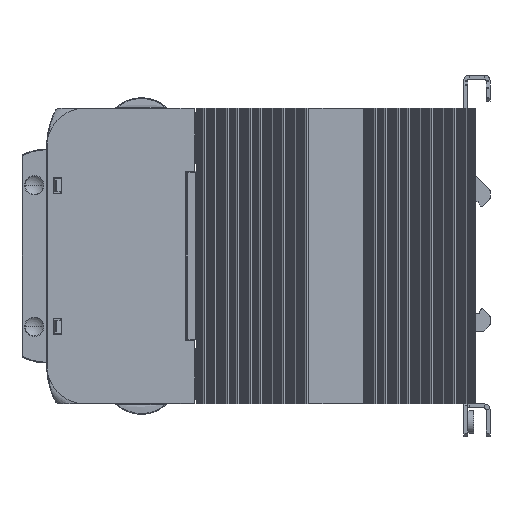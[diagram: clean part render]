
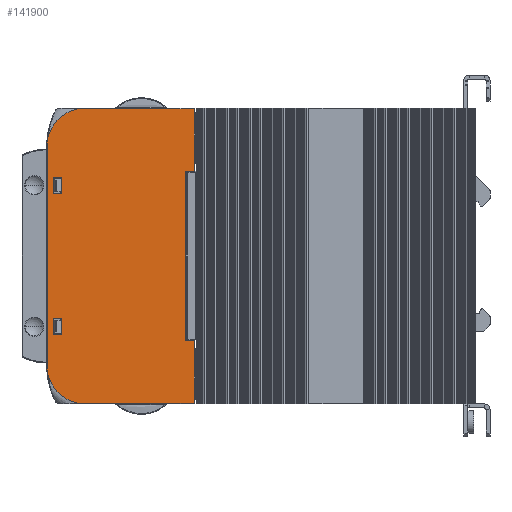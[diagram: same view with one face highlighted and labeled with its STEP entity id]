
A CAD part, left-side view. The second image highlights one B-rep face of the part: STEP entity #141900.
In plain terms, the highlighted planar face has unit normal (-1, 0, 0).
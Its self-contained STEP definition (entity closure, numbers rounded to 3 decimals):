
#105320=DIRECTION('',(0.,0.,1.));
#105321=VECTOR('',#105320,4.4);
#105322=CARTESIAN_POINT('',(-8.75,43.,-23.7));
#105323=LINE('',#105322,#105321);
#105327=DIRECTION('',(0.,1.,0.));
#105328=VECTOR('',#105327,1.9);
#105329=CARTESIAN_POINT('',(-8.75,40.8,-24.));
#105330=LINE('',#105329,#105328);
#105334=DIRECTION('',(0.,0.,-1.));
#105335=VECTOR('',#105334,4.4);
#105336=CARTESIAN_POINT('',(-8.75,40.5,-19.3));
#105337=LINE('',#105336,#105335);
#105341=DIRECTION('',(0.,-1.,0.));
#105342=VECTOR('',#105341,1.9);
#105343=CARTESIAN_POINT('',(-8.75,42.7,-19.));
#105344=LINE('',#105343,#105342);
#105348=DIRECTION('',(0.,-1.,0.));
#105349=VECTOR('',#105348,1.9);
#105350=CARTESIAN_POINT('',(-8.75,42.7,24.));
#105351=LINE('',#105350,#105349);
#105355=DIRECTION('',(0.,0.,1.));
#105356=VECTOR('',#105355,4.4);
#105357=CARTESIAN_POINT('',(-8.75,43.,19.3));
#105358=LINE('',#105357,#105356);
#105362=DIRECTION('',(0.,1.,0.));
#105363=VECTOR('',#105362,1.9);
#105364=CARTESIAN_POINT('',(-8.75,40.8,19.));
#105365=LINE('',#105364,#105363);
#105369=DIRECTION('',(0.,0.,-1.));
#105370=VECTOR('',#105369,4.4);
#105371=CARTESIAN_POINT('',(-8.75,40.5,23.7));
#105372=LINE('',#105371,#105370);
#105376=DIRECTION('',(0.,0.,1.));
#105377=VECTOR('',#105376,19.102);
#105378=CARTESIAN_POINT('',(-8.75,0.2,25.698));
#105379=LINE('',#105378,#105377);
#105383=DIRECTION('',(0.,1.,-0.009));
#105384=VECTOR('',#105383,2.7);
#105385=CARTESIAN_POINT('',(-8.75,0.2,25.698));
#105386=LINE('',#105385,#105384);
#105390=DIRECTION('',(0.,0.,1.));
#105391=VECTOR('',#105390,51.349);
#105392=CARTESIAN_POINT('',(-8.75,2.9,-25.675));
#105393=LINE('',#105392,#105391);
#105397=DIRECTION('',(0.,1.,0.009));
#105398=VECTOR('',#105397,2.7);
#105399=CARTESIAN_POINT('',(-8.75,0.2,-25.698));
#105400=LINE('',#105399,#105398);
#105404=DIRECTION('',(0.,0.,1.));
#105405=VECTOR('',#105404,19.102);
#105406=CARTESIAN_POINT('',(-8.75,0.2,-44.8));
#105407=LINE('',#105406,#105405);
#105411=DIRECTION('',(0.,-1.,0.));
#105412=VECTOR('',#105411,34.982);
#105413=CARTESIAN_POINT('',(-8.75,35.182,-44.8));
#105414=LINE('',#105413,#105412);
#105418=CARTESIAN_POINT('',(-8.75,33.,-33.));
#105419=DIRECTION('',(-1.,0.,0.));
#105420=DIRECTION('',(0.,0.968,-0.251));
#105421=AXIS2_PLACEMENT_3D('',#105418,#105419,#105420);
#105426=CARTESIAN_POINT('',(-8.75,20.,-33.));
#105427=DIRECTION('',(-1.,0.,0.));
#105428=DIRECTION('',(0.,1.,0.));
#105429=AXIS2_PLACEMENT_3D('',#105426,#105427,#105428);
#105434=DIRECTION('',(0.,0.,-1.));
#105435=VECTOR('',#105434,66.);
#105436=CARTESIAN_POINT('',(-8.75,44.8,
33.));
#105437=LINE('',#105436,#105435);
#105441=CARTESIAN_POINT('',(-8.75,20.,33.));
#105442=DIRECTION('',(-1.,0.,0.));
#105443=DIRECTION('',(0.,0.993,0.121));
#105444=AXIS2_PLACEMENT_3D('',#105441,#105442,#105443);
#105449=CARTESIAN_POINT('',(-8.75,33.,33.));
#105450=DIRECTION('',(1.,0.,0.));
#105451=DIRECTION('',(0.,0.968,0.251));
#105452=AXIS2_PLACEMENT_3D('',#105449,#105450,#105451);
#105457=DIRECTION('',(0.,1.,0.));
#105458=VECTOR('',#105457,34.982);
#105459=CARTESIAN_POINT('',(-8.75,0.2,44.8));
#105460=LINE('',#105459,#105458);
#105487=CARTESIAN_POINT('',(-8.75,42.7,-23.7));
#105488=DIRECTION('',(1.,0.,0.));
#105489=DIRECTION('',(0.,0.,-1.));
#105490=AXIS2_PLACEMENT_3D('',#105487,#105488,#105489);
#105645=CARTESIAN_POINT('',(-8.75,40.8,-23.7));
#105646=DIRECTION('',(1.,0.,0.));
#105647=DIRECTION('',(0.,-1.,0.));
#105648=AXIS2_PLACEMENT_3D('',#105645,#105646,#105647);
#105683=CARTESIAN_POINT('',(-8.75,40.8,-19.3));
#105684=DIRECTION('',(1.,0.,0.));
#105685=DIRECTION('',(0.,0.,1.));
#105686=AXIS2_PLACEMENT_3D('',#105683,#105684,#105685);
#105721=CARTESIAN_POINT('',(-8.75,42.7,-19.3));
#105722=DIRECTION('',(1.,0.,0.));
#105723=DIRECTION('',(0.,1.,0.));
#105724=AXIS2_PLACEMENT_3D('',#105721,#105722,#105723);
#105752=CARTESIAN_POINT('',(-8.75,42.7,23.7));
#105753=DIRECTION('',(1.,0.,0.));
#105754=DIRECTION('',(0.,1.,0.));
#105755=AXIS2_PLACEMENT_3D('',#105752,#105753,#105754);
#105790=CARTESIAN_POINT('',(-8.75,40.8,23.7));
#105791=DIRECTION('',(1.,0.,0.));
#105792=DIRECTION('',(0.,0.,1.));
#105793=AXIS2_PLACEMENT_3D('',#105790,#105791,#105792);
#105828=CARTESIAN_POINT('',(-8.75,40.8,19.3));
#105829=DIRECTION('',(1.,0.,0.));
#105830=DIRECTION('',(0.,-1.,0.));
#105831=AXIS2_PLACEMENT_3D('',#105828,#105829,#105830);
#105866=CARTESIAN_POINT('',(-8.75,42.7,19.3));
#105867=DIRECTION('',(1.,0.,0.));
#105868=DIRECTION('',(0.,0.,-1.));
#105869=AXIS2_PLACEMENT_3D('',#105866,#105867,#105868);
#126360=CARTESIAN_POINT('',(-8.75,44.617,
-36.008));
#128901=CARTESIAN_POINT('',(-8.75,35.182,44.8));
#138521=CARTESIAN_POINT('',(-8.75,0.2,25.698));
#138522=CARTESIAN_POINT('',(-8.75,0.2,44.8));
#138523=VERTEX_POINT('',#138521);
#138524=VERTEX_POINT('',#138522);
#138531=CARTESIAN_POINT('',(-8.75,35.182,-44.8));
#138532=CARTESIAN_POINT('',(-8.75,0.2,-44.8));
#138533=VERTEX_POINT('',#138531);
#138534=VERTEX_POINT('',#138532);
#138539=VERTEX_POINT('',#126360);
#138541=CARTESIAN_POINT('',(-8.75,44.8,-33.));
#138542=VERTEX_POINT('',#138541);
#138545=CARTESIAN_POINT('',(-8.75,44.8,
33.));
#138546=VERTEX_POINT('',#138545);
#138549=CARTESIAN_POINT('',(-8.75,44.617,36.008));
#138550=VERTEX_POINT('',#138549);
#138557=VERTEX_POINT('',#128901);
#138567=CARTESIAN_POINT('',(-8.75,0.2,-25.698));
#138568=VERTEX_POINT('',#138567);
#138757=CARTESIAN_POINT('',(-8.75,2.9,-25.675));
#138758=CARTESIAN_POINT('',(-8.75,2.9,25.675));
#138759=VERTEX_POINT('',#138757);
#138760=VERTEX_POINT('',#138758);
#138838=CARTESIAN_POINT('',(-8.75,40.8,-24.));
#138839=CARTESIAN_POINT('',(-8.75,42.7,-24.));
#138840=VERTEX_POINT('',#138838);
#138841=VERTEX_POINT('',#138839);
#138842=CARTESIAN_POINT('',(-8.75,40.5,-19.3));
#138843=CARTESIAN_POINT('',(-8.75,40.5,-23.7));
#138844=VERTEX_POINT('',#138842);
#138845=VERTEX_POINT('',#138843);
#138846=CARTESIAN_POINT('',(-8.75,42.7,-19.));
#138847=CARTESIAN_POINT('',(-8.75,40.8,-19.));
#138848=VERTEX_POINT('',#138846);
#138849=VERTEX_POINT('',#138847);
#138850=CARTESIAN_POINT('',(-8.75,43.,-23.7));
#138851=CARTESIAN_POINT('',(-8.75,43.,-19.3));
#138852=VERTEX_POINT('',#138850);
#138853=VERTEX_POINT('',#138851);
#138854=CARTESIAN_POINT('',(-8.75,43.,19.3));
#138855=CARTESIAN_POINT('',(-8.75,43.,23.7));
#138856=VERTEX_POINT('',#138854);
#138857=VERTEX_POINT('',#138855);
#138858=CARTESIAN_POINT('',(-8.75,40.8,19.));
#138859=CARTESIAN_POINT('',(-8.75,42.7,19.));
#138860=VERTEX_POINT('',#138858);
#138861=VERTEX_POINT('',#138859);
#138862=CARTESIAN_POINT('',(-8.75,40.5,23.7));
#138863=CARTESIAN_POINT('',(-8.75,40.5,19.3));
#138864=VERTEX_POINT('',#138862);
#138865=VERTEX_POINT('',#138863);
#138866=CARTESIAN_POINT('',(-8.75,42.7,24.));
#138867=CARTESIAN_POINT('',(-8.75,40.8,24.));
#138868=VERTEX_POINT('',#138866);
#138869=VERTEX_POINT('',#138867);
#141833=CARTESIAN_POINT('',(-8.75,0.,0.));
#141834=DIRECTION('',(1.,0.,0.));
#141835=DIRECTION('',(0.,0.,-1.));
#141836=AXIS2_PLACEMENT_3D('',#141833,#141834,#141835);
#141837=PLANE('',#141836);
#141839=ORIENTED_EDGE('',*,*,#141838,.F.);
#141841=ORIENTED_EDGE('',*,*,#141840,.T.);
#141843=ORIENTED_EDGE('',*,*,#141842,.F.);
#141845=ORIENTED_EDGE('',*,*,#141844,.F.);
#141847=ORIENTED_EDGE('',*,*,#141846,.F.);
#141849=ORIENTED_EDGE('',*,*,#141848,.F.);
#141851=ORIENTED_EDGE('',*,*,#141850,.F.);
#141853=ORIENTED_EDGE('',*,*,#141852,.F.);
#141855=ORIENTED_EDGE('',*,*,#141854,.F.);
#141857=ORIENTED_EDGE('',*,*,#141856,.F.);
#141859=ORIENTED_EDGE('',*,*,#141858,.T.);
#141861=ORIENTED_EDGE('',*,*,#141860,.F.);
#141862=EDGE_LOOP('',(#141839,#141841,#141843,#141845,#141847,#141849,#141851,
#141853,#141855,#141857,#141859,#141861));
#141863=FACE_OUTER_BOUND('',#141862,.F.);
#141865=ORIENTED_EDGE('',*,*,#141864,.F.);
#141867=ORIENTED_EDGE('',*,*,#141866,.F.);
#141869=ORIENTED_EDGE('',*,*,#141868,.F.);
#141871=ORIENTED_EDGE('',*,*,#141870,.F.);
#141873=ORIENTED_EDGE('',*,*,#141872,.F.);
#141875=ORIENTED_EDGE('',*,*,#141874,.F.);
#141877=ORIENTED_EDGE('',*,*,#141876,.F.);
#141879=ORIENTED_EDGE('',*,*,#141878,.F.);
#141880=EDGE_LOOP('',(#141865,#141867,#141869,#141871,#141873,#141875,#141877,
#141879));
#141881=FACE_BOUND('',#141880,.F.);
#141883=ORIENTED_EDGE('',*,*,#141882,.F.);
#141885=ORIENTED_EDGE('',*,*,#141884,.F.);
#141887=ORIENTED_EDGE('',*,*,#141886,.F.);
#141889=ORIENTED_EDGE('',*,*,#141888,.F.);
#141891=ORIENTED_EDGE('',*,*,#141890,.F.);
#141893=ORIENTED_EDGE('',*,*,#141892,.F.);
#141895=ORIENTED_EDGE('',*,*,#141894,.F.);
#141897=ORIENTED_EDGE('',*,*,#141896,.F.);
#141898=EDGE_LOOP('',(#141883,#141885,#141887,#141889,#141891,#141893,#141895,
#141897));
#141899=FACE_BOUND('',#141898,.F.);
#105422=CIRCLE('',#105421,12.);
#105430=CIRCLE('',#105429,24.8);
#105445=CIRCLE('',#105444,24.8);
#105453=CIRCLE('',#105452,12.);
#105491=CIRCLE('',#105490,0.3);
#105649=CIRCLE('',#105648,0.3);
#105687=CIRCLE('',#105686,0.3);
#105725=CIRCLE('',#105724,0.3);
#105756=CIRCLE('',#105755,0.3);
#105794=CIRCLE('',#105793,0.3);
#105832=CIRCLE('',#105831,0.3);
#105870=CIRCLE('',#105869,0.3);
#141838=EDGE_CURVE('',#138523,#138524,#105379,.T.);
#141840=EDGE_CURVE('',#138523,#138760,#105386,.T.);
#141842=EDGE_CURVE('',#138759,#138760,#105393,.T.);
#141844=EDGE_CURVE('',#138568,#138759,#105400,.T.);
#141846=EDGE_CURVE('',#138534,#138568,#105407,.T.);
#141848=EDGE_CURVE('',#138533,#138534,#105414,.T.);
#141850=EDGE_CURVE('',#138539,#138533,#105422,.T.);
#141852=EDGE_CURVE('',#138542,#138539,#105430,.T.);
#141854=EDGE_CURVE('',#138546,#138542,#105437,.T.);
#141856=EDGE_CURVE('',#138550,#138546,#105445,.T.);
#141858=EDGE_CURVE('',#138550,#138557,#105453,.T.);
#141860=EDGE_CURVE('',#138524,#138557,#105460,.T.);
#141864=EDGE_CURVE('',#138868,#138869,#105351,.T.);
#141866=EDGE_CURVE('',#138857,#138868,#105756,.T.);
#141868=EDGE_CURVE('',#138856,#138857,#105358,.T.);
#141870=EDGE_CURVE('',#138861,#138856,#105870,.T.);
#141872=EDGE_CURVE('',#138860,#138861,#105365,.T.);
#141874=EDGE_CURVE('',#138865,#138860,#105832,.T.);
#141876=EDGE_CURVE('',#138864,#138865,#105372,.T.);
#141878=EDGE_CURVE('',#138869,#138864,#105794,.T.);
#141882=EDGE_CURVE('',#138852,#138853,#105323,.T.);
#141884=EDGE_CURVE('',#138841,#138852,#105491,.T.);
#141886=EDGE_CURVE('',#138840,#138841,#105330,.T.);
#141888=EDGE_CURVE('',#138845,#138840,#105649,.T.);
#141890=EDGE_CURVE('',#138844,#138845,#105337,.T.);
#141892=EDGE_CURVE('',#138849,#138844,#105687,.T.);
#141894=EDGE_CURVE('',#138848,#138849,#105344,.T.);
#141896=EDGE_CURVE('',#138853,#138848,#105725,.T.);
#141900=ADVANCED_FACE('',(#141863,#141881,#141899),#141837,.F.);
